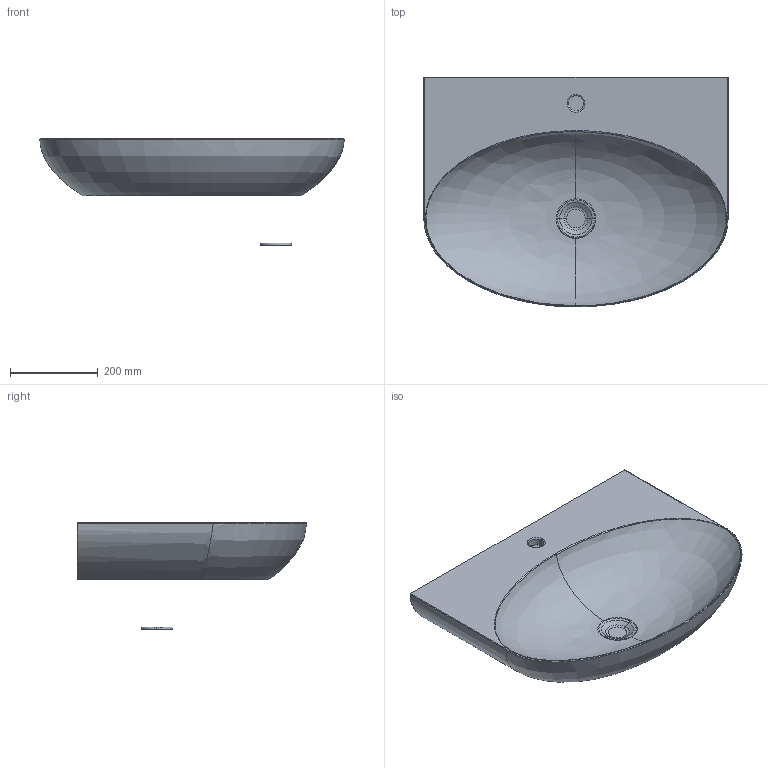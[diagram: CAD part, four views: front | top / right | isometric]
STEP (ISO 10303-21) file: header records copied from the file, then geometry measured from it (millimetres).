
FILE_DESCRIPTION(/* description */ (''),/* implementation_level */ '2;1');
FILE_NAME(/* name */ 'FLAT_4',/* time_stamp */ '2020-11-16T08:58:03+01:00',/* author */ (''),/* organization */ (''),/* preprocessor_version */ 'ST-DEVELOPER v15',/* originating_system */ '',/* authorisation */ '');
FILE_SCHEMA (('AUTOMOTIVE_DESIGN'));
Length unit declared in the file: millimetre
Products named in the file (1): Document
Bounding box: 695.05 x 524.81 x 243.4 mm (x, y, z)
Volume: 22980448.5 mm3; surface area: 923109.6 mm2
Topology: 2 solids, 3 shells, 38 faces, 79 edges, 51 vertices
Faces by surface type: bspline 28, plane 10
Entity records: 8218 total; most frequent: CARTESIAN_POINT 7696, ORIENTED_EDGE 154, EDGE_CURVE 79, VERTEX_POINT 51, EDGE_LOOP 43, ADVANCED_FACE 38, FACE_OUTER_BOUND 38, B_SPLINE_CURVE_WITH_KNOTS 16
